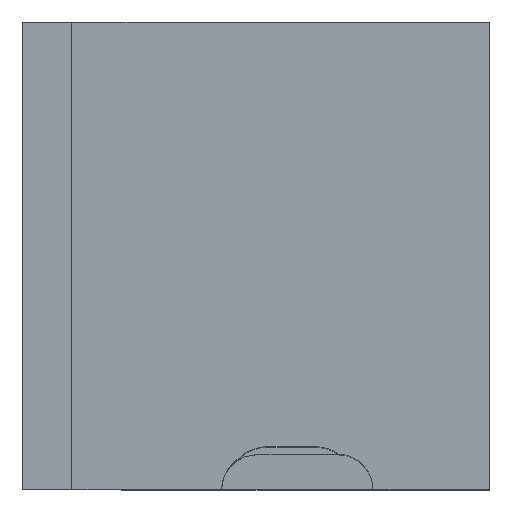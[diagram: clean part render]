
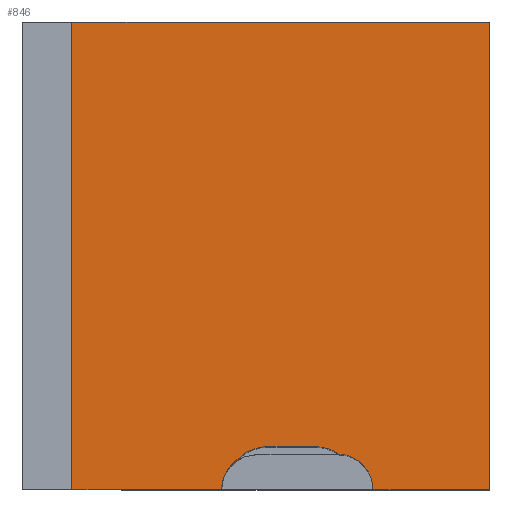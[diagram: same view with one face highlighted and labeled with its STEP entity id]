
A CAD part, top view. The second image highlights one B-rep face of the part: STEP entity #846.
In plain terms, the highlighted planar face has unit normal (0, 0, 1).
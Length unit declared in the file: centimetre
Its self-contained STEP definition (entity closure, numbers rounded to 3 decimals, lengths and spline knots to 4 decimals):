
#7 = CARTESIAN_POINT ( 'NONE',  ( 750.2222, 0., 1000. ) ) ;
#21 = VERTEX_POINT ( 'NONE', #877 ) ;
#49 = CARTESIAN_POINT ( 'NONE',  ( 0., 0., 1000. ) ) ;
#55 = CARTESIAN_POINT ( 'NONE',  ( 105.9617, 0., 1000. ) ) ;
#56 = EDGE_CURVE ( 'NONE', #520, #935, #421, .T. ) ;
#66 = CARTESIAN_POINT ( 'NONE',  ( 0., 0., 1000. ) ) ;
#118 = EDGE_CURVE ( 'NONE', #1520, #511, #131, .T. ) ;
#131 = LINE ( 'NONE', #1210, #1375 ) ;
#189 = DIRECTION ( 'NONE',  ( 1., 0., 0. ) ) ;
#192 = ORIENTED_EDGE ( 'NONE', *, *, #656, .T. ) ;
#204 = DIRECTION ( 'NONE',  ( -1., 0., 0. ) ) ;
#222 = ORIENTED_EDGE ( 'NONE', *, *, #56, .T. ) ;
#234 = DIRECTION ( 'NONE',  ( 0., 0., 1. ) ) ;
#236 = EDGE_LOOP ( 'NONE', ( #1296, #222, #1372, #1098, #1112, #537, #865, #1349, #192, #739 ) ) ;
#241 = EDGE_CURVE ( 'NONE', #910, #1028, #836, .T. ) ;
#244 = VECTOR ( 'NONE', #204, 100. ) ;
#260 = CARTESIAN_POINT ( 'NONE',  ( 525.392, 0., 1000. ) ) ;
#310 = CARTESIAN_POINT ( 'NONE',  ( 0., 1000., 1000. ) ) ;
#318 = VECTOR ( 'NONE', #856, 100. ) ;
#319 = EDGE_CURVE ( 'NONE', #21, #910, #1525, .T. ) ;
#333 = VECTOR ( 'NONE', #1175, 100. ) ;
#346 = CARTESIAN_POINT ( 'NONE',  ( 457.0863, 60.3551, 1000. ) ) ;
#355 = CARTESIAN_POINT ( 'NONE',  ( 625.4634, 0., 1000. ) ) ;
#369 = CARTESIAN_POINT ( 'NONE',  ( 426.6788, 0., 1000. ) ) ;
#379 = CARTESIAN_POINT ( 'NONE',  ( 1000., 1000., 1000. ) ) ;
#408 = CARTESIAN_POINT ( 'NONE',  ( 1000., 1000., 1000. ) ) ;
#415 = VECTOR ( 'NONE', #934, 100. ) ;
#421 = LINE ( 'NONE', #49, #781 ) ;
#451 = CARTESIAN_POINT ( 'NONE',  ( 675.1198, 0., 1000. ) ) ;
#472 = CARTESIAN_POINT ( 'NONE',  ( 677.1567, 75.0747, 1000. ) ) ;
#511 = VERTEX_POINT ( 'NONE', #754 ) ;
#520 = VERTEX_POINT ( 'NONE', #55 ) ;
#529 = AXIS2_PLACEMENT_3D ( 'NONE', #1039, #665, #189 ) ;
#537 = ORIENTED_EDGE ( 'NONE', *, *, #1015, .F. ) ;
#555 = VERTEX_POINT ( 'NONE', #408 ) ;
#576 = AXIS2_PLACEMENT_3D ( 'NONE', #66, #681, #917 ) ;
#591 = CIRCLE ( 'NONE', #1061, 91.1505 ) ;
#656 = EDGE_CURVE ( 'NONE', #511, #555, #1446, .T. ) ;
#665 = DIRECTION ( 'NONE',  ( 0., 0., 1. ) ) ;
#681 = DIRECTION ( 'NONE',  ( 0., 0., 1. ) ) ;
#712 = DIRECTION ( 'NONE',  ( 1., 0., 0. ) ) ;
#739 = ORIENTED_EDGE ( 'NONE', *, *, #824, .T. ) ;
#746 = DIRECTION ( 'NONE',  ( 0., 0., 1. ) ) ;
#754 = CARTESIAN_POINT ( 'NONE',  ( 1000., 0., 1000. ) ) ;
#781 = VECTOR ( 'NONE', #893, 100. ) ;
#808 = LINE ( 'NONE', #310, #244 ) ;
#810 = AXIS2_PLACEMENT_3D ( 'NONE', #260, #746, #1220 ) ;
#813 = CARTESIAN_POINT ( 'NONE',  ( 625.4634, 91.1505, 1000. ) ) ;
#824 = EDGE_CURVE ( 'NONE', #555, #897, #808, .T. ) ;
#836 = CIRCLE ( 'NONE', #810, 91.1505 ) ;
#846 = ADVANCED_FACE ( 'NONE', ( #1129 ), #1486, .T. ) ;
#848 = CARTESIAN_POINT ( 'NONE',  ( 105.9617, 1000., 1000. ) ) ;
#856 = DIRECTION ( 'NONE',  ( 0., 1., 0. ) ) ;
#863 = EDGE_CURVE ( 'NONE', #1028, #935, #1266, .T. ) ;
#865 = ORIENTED_EDGE ( 'NONE', *, *, #1320, .F. ) ;
#877 = CARTESIAN_POINT ( 'NONE',  ( 625.4634, 91.1505, 1000. ) ) ;
#883 = DIRECTION ( 'NONE',  ( 1., 0., 0. ) ) ;
#893 = DIRECTION ( 'NONE',  ( 1., 0., 0. ) ) ;
#897 = VERTEX_POINT ( 'NONE', #1370 ) ;
#910 = VERTEX_POINT ( 'NONE', #1033 ) ;
#917 = DIRECTION ( 'NONE',  ( 1., 0., 0. ) ) ;
#927 = VERTEX_POINT ( 'NONE', #472 ) ;
#934 = DIRECTION ( 'NONE',  ( 0., -1., 0. ) ) ;
#935 = VERTEX_POINT ( 'NONE', #369 ) ;
#1015 = EDGE_CURVE ( 'NONE', #927, #21, #591, .T. ) ;
#1028 = VERTEX_POINT ( 'NONE', #346 ) ;
#1033 = CARTESIAN_POINT ( 'NONE',  ( 525.392, 91.1505, 1000. ) ) ;
#1039 = CARTESIAN_POINT ( 'NONE',  ( 501.7811, 0., 1000. ) ) ;
#1061 = AXIS2_PLACEMENT_3D ( 'NONE', #355, #234, #712 ) ;
#1098 = ORIENTED_EDGE ( 'NONE', *, *, #241, .F. ) ;
#1112 = ORIENTED_EDGE ( 'NONE', *, *, #319, .F. ) ;
#1129 = FACE_OUTER_BOUND ( 'NONE', #236, .T. ) ;
#1175 = DIRECTION ( 'NONE',  ( -1., 0., 0. ) ) ;
#1210 = CARTESIAN_POINT ( 'NONE',  ( 0., 0., 1000. ) ) ;
#1220 = DIRECTION ( 'NONE',  ( 1., 0., 0. ) ) ;
#1266 = CIRCLE ( 'NONE', #529, 75.1024 ) ;
#1267 = CIRCLE ( 'NONE', #1470, 75.1024 ) ;
#1296 = ORIENTED_EDGE ( 'NONE', *, *, #1461, .T. ) ;
#1320 = EDGE_CURVE ( 'NONE', #1520, #927, #1267, .T. ) ;
#1349 = ORIENTED_EDGE ( 'NONE', *, *, #118, .T. ) ;
#1363 = DIRECTION ( 'NONE',  ( 1., 0., 0. ) ) ;
#1370 = CARTESIAN_POINT ( 'NONE',  ( 105.9617, 1000., 1000. ) ) ;
#1371 = DIRECTION ( 'NONE',  ( 0., 0., 1. ) ) ;
#1372 = ORIENTED_EDGE ( 'NONE', *, *, #863, .F. ) ;
#1375 = VECTOR ( 'NONE', #883, 100. ) ;
#1410 = LINE ( 'NONE', #848, #415 ) ;
#1446 = LINE ( 'NONE', #379, #318 ) ;
#1461 = EDGE_CURVE ( 'NONE', #897, #520, #1410, .T. ) ;
#1470 = AXIS2_PLACEMENT_3D ( 'NONE', #451, #1371, #1363 ) ;
#1486 = PLANE ( 'NONE',  #576 ) ;
#1520 = VERTEX_POINT ( 'NONE', #7 ) ;
#1525 = LINE ( 'NONE', #813, #333 ) ;
